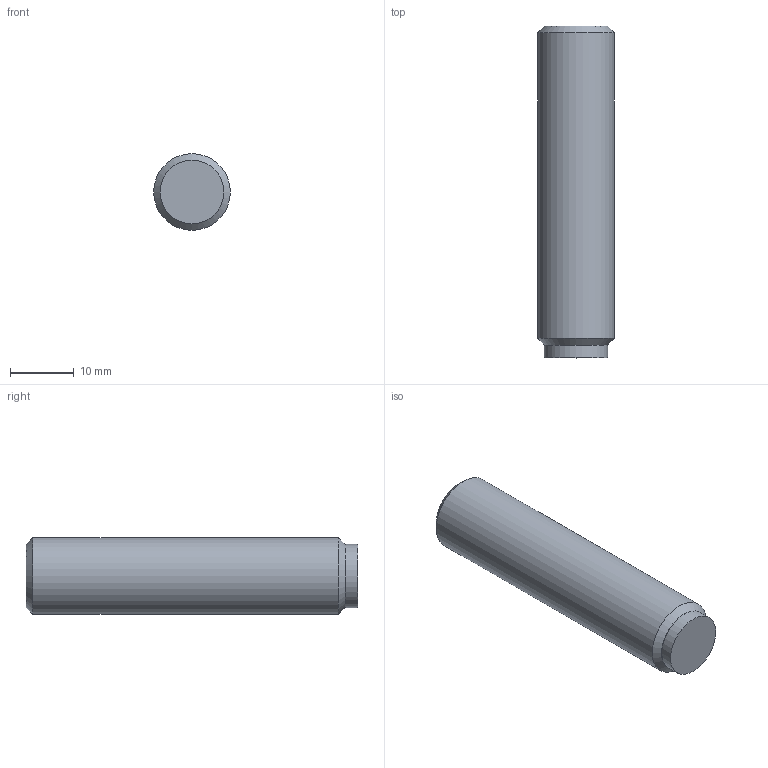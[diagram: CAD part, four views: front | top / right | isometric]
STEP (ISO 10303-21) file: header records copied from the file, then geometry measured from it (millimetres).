
FILE_DESCRIPTION( ( 'STEP AP203' ), '1' );
FILE_NAME( 'C:/Temp/Ganter_Step_05_03_2020/data/3_2/gn913_3/Grub screw GN 913.3-M12-50-MS.stp', '2020-03-13T05:35:54', ( 'License CC BY-ND 4.0' ), ( 'CADENAS' ), ' ', 'PARTsolutions', ' ' );
FILE_SCHEMA( ( 'CONFIG_CONTROL_DESIGN' ) );
Length unit declared in the file: millimetre
Products named in the file (1): _Grub screw GN 913.3-M12-50-MS
Bounding box: 12 x 52 x 12 mm (x, y, z)
Volume: 5521.7 mm3; surface area: 2294.4 mm2
Topology: 1 solids, 1 shells, 14 faces, 28 edges, 18 vertices
Faces by surface type: plane 10, cylinder 2, cone 2
Full cylindrical faces by diameter (mm): 10 x1, 12 x1
Entity records: 386 total; most frequent: DIRECTION 60, CARTESIAN_POINT 57, ORIENTED_EDGE 48, EDGE_CURVE 24, AXIS2_PLACEMENT_3D 21, EDGE_LOOP 20, VERTEX_POINT 18, LINE 18
